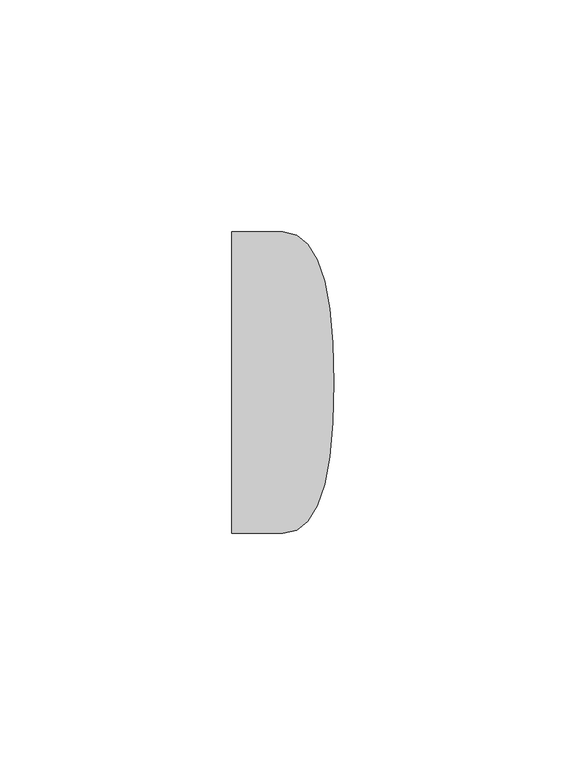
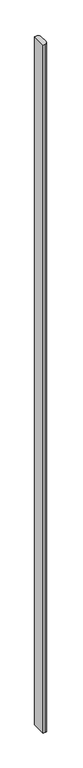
"""IFC4 building model written with IfcOpenShell, lengths in millimetres: sanitary terminal geometry, Z_DO_NOT_USE_NLRS_PF_52_UN_Slim Tube drain pipe lengte 3,2m_Easydrain : Slim Tube - lengte 3,2 m."""

from ifc_helpers import new_model, si_unit, frame, origin, place, context, project, spatial, source, transform, mapped, element, save
from ifc_brep_helpers import plane_surface, extruded_surface, spline_curve, advanced_brep


def sanitary_terminal_0f77349a(model_context):
    return source(origin(), model_context, "Body", "AdvancedBrep", [
        advanced_brep(
        [(0.0, 32.5, 0.0), (-11.0, 32.5, 0.0), (-11.0, -32.5, 0.0), (0.0, -32.5, 0.0), (11.0, 0.0, 0.0), (0.0, 32.5, -3200.0), (11.0, 0.0, -3200.0), (0.0, -32.5, -3200.0), (-11.0, -32.5, -3200.0), (-11.0, 32.5, -3200.0)],
        [
            (0, 1),
            (1, 2),
            (2, 3),
            (3, 4, spline_curve(3, [(0.0, -32.5, 0.0), (7.333333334, -32.5, 0.0), (11.0, -21.666666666, 0.0), (11.0, 0.0, 0.0)], [4, 4], [0.0, 0.07135826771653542])),
            (4, 0, spline_curve(3, [(11.0, 0.0, 0.0), (11.0, 21.666666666, 0.0), (7.333333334, 32.5, 0.0), (0.0, 32.5, 0.0)], [4, 4], [0.0, 0.07135826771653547])),
            (5, 6, spline_curve(3, [(0.0, 32.5, -3200.0), (7.333333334, 32.5, -3200.0), (11.0, 21.666666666, -3200.0), (11.0, 0.0, -3200.0)], [4, 4], [0.0, 0.07135826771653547])),
            (6, 7, spline_curve(3, [(11.0, 0.0, -3200.0), (11.0, -21.666666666, -3200.0), (7.333333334, -32.5, -3200.0), (0.0, -32.5, -3200.0)], [4, 4], [0.0, 0.07135826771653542])),
            (7, 8),
            (8, 9),
            (9, 5),
            (4, 6),
            (5, 0),
            (3, 7),
            (2, 8),
            (1, 9),
        ],
        [
            plane_surface(frame((0.0, 0.0, 0.0), z_axis=(0.0, 0.0, 1.0), x_axis=(0.0, -1.0, 0.0))),
            plane_surface(frame((0.0, 0.0, -3200.0), z_axis=(0.0, 0.0, -1.0), x_axis=(0.0, -1.0, 0.0))),
            extruded_surface(spline_curve(3, [(11.0, 0.0, -3200.0), (11.0, 21.666666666, -3200.0), (7.333333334, 32.5, -3200.0), (0.0, 32.5, -3200.0)], [4, 4], [0.0, 0.07135826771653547]), (0.0, 0.0, 3200.0), 3200.0),
            extruded_surface(spline_curve(3, [(0.0, -32.5, -3200.0), (7.333333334, -32.5, -3200.0), (11.0, -21.666666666, -3200.0), (11.0, 0.0, -3200.0)], [4, 4], [0.0, 0.07135826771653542]), (0.0, 0.0, 3200.0), 3200.0),
            plane_surface(frame((-11.0, -32.5, 0.0), z_axis=(0.0, -1.0, 0.0), x_axis=(0.0, 0.0, -1.0))),
            plane_surface(frame((-11.0, 32.5, 0.0), z_axis=(-1.0, 0.0, 0.0), x_axis=(0.0, 0.0, -1.0))),
            plane_surface(frame((0.0, 32.5, 0.0), z_axis=(0.0, 1.0, 0.0), x_axis=(0.0, 0.0, -1.0))),
        ],
        [
            (0, [[1, 2, 3, 4, 5]]),
            (1, [[6, 7, 8, 9, 10]]),
            (2, [[-5, 11, -6, 12]]),
            (3, [[-4, 13, -7, -11]]),
            (4, [[-3, 14, -8, -13]]),
            (5, [[-2, 15, -9, -14]]),
            (6, [[-1, -12, -10, -15]]),
        ],
    ),
    ])


if __name__ == "__main__":
    model = new_model("IFC4")
    model_context = context("Model", 3, world=origin())
    ifc_project = project(units=[si_unit("LENGTHUNIT", "METRE", prefix="MILLI")], contexts=[model_context])
    site = spatial("IfcSite", under=ifc_project)
    building = spatial("IfcBuilding", under=site)
    placement = place(None, origin())
    sanitary_terminal_shape = sanitary_terminal_0f77349a(model_context)
    element("IfcSanitaryTerminal", 1, ObjectType="Z_DO_NOT_USE_NLRS_PF_52_UN_Slim Tube drain pipe lengte 3,2m_Easydrain : Slim Tube - lengte 3,2 m", at=placement, inside=building, context=model_context, shape_type="MappedRepresentation", body=[
        mapped(sanitary_terminal_shape, transform((0.0, 0.0, 0.0), x_axis=(1.0, 0.0, 0.0), y_axis=(0.0, 1.0, 0.0), z_axis=(0.0, 0.0, 1.0))),
    ])
    save(model, "model.ifc")
